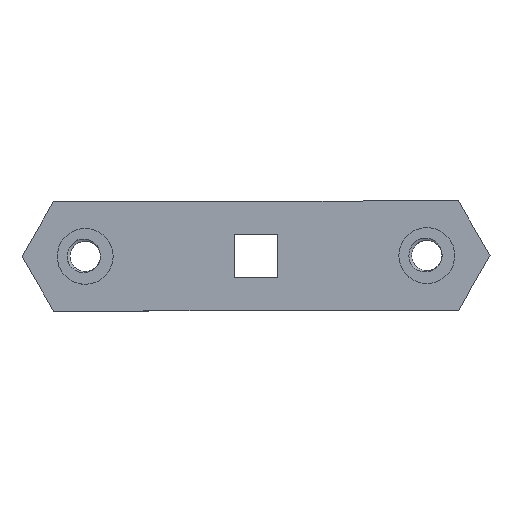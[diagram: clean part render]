
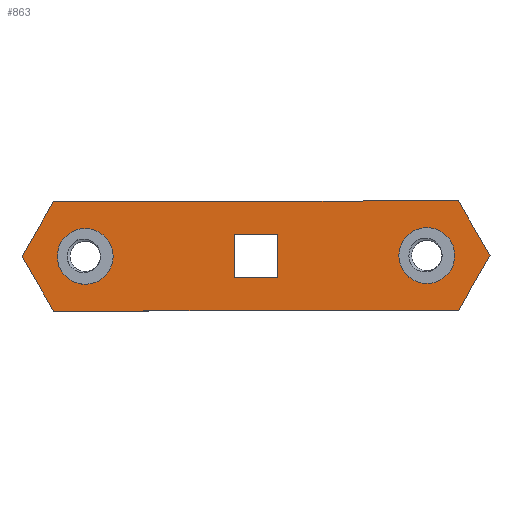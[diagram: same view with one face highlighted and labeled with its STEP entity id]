
A CAD part, top view. The second image highlights one B-rep face of the part: STEP entity #863.
In plain terms, the highlighted planar face has unit normal (0, 0, 1) as drawn and (0, 1, 0) by its records, which use the part's own axes.
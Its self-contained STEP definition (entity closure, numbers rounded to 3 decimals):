
#25=FACE_BOUND('',#142,.T.);
#26=FACE_BOUND('',#143,.T.);
#27=FACE_BOUND('',#144,.T.);
#43=PLANE('',#935);
#93=FACE_OUTER_BOUND('',#141,.T.);
#141=EDGE_LOOP('',(#761,#762,#763,#764,#765,#766));
#142=EDGE_LOOP('',(#767));
#143=EDGE_LOOP('',(#768));
#144=EDGE_LOOP('',(#769,#770,#771,#772));
#161=CIRCLE('',#920,6.375);
#162=CIRCLE('',#922,6.375);
#247=LINE('',#4027,#301);
#250=LINE('',#4033,#304);
#253=LINE('',#4039,#307);
#256=LINE('',#4043,#310);
#259=LINE('',#4053,#313);
#262=LINE('',#4059,#316);
#265=LINE('',#4065,#319);
#268=LINE('',#4071,#322);
#271=LINE('',#4077,#325);
#274=LINE('',#4081,#328);
#301=VECTOR('',#1057,10.);
#304=VECTOR('',#1062,10.);
#307=VECTOR('',#1067,10.);
#310=VECTOR('',#1072,10.);
#313=VECTOR('',#1081,10.);
#316=VECTOR('',#1086,10.);
#319=VECTOR('',#1091,10.);
#322=VECTOR('',#1096,10.);
#325=VECTOR('',#1101,10.);
#328=VECTOR('',#1106,10.);
#391=VERTEX_POINT('',#4013);
#392=VERTEX_POINT('',#4017);
#395=VERTEX_POINT('',#4024);
#396=VERTEX_POINT('',#4026);
#398=VERTEX_POINT('',#4032);
#400=VERTEX_POINT('',#4038);
#403=VERTEX_POINT('',#4050);
#404=VERTEX_POINT('',#4052);
#406=VERTEX_POINT('',#4058);
#408=VERTEX_POINT('',#4064);
#410=VERTEX_POINT('',#4070);
#412=VERTEX_POINT('',#4076);
#506=EDGE_CURVE('',#391,#391,#161,.T.);
#508=EDGE_CURVE('',#392,#392,#162,.T.);
#511=EDGE_CURVE('',#396,#395,#247,.T.);
#514=EDGE_CURVE('',#398,#396,#250,.T.);
#517=EDGE_CURVE('',#400,#398,#253,.T.);
#520=EDGE_CURVE('',#395,#400,#256,.T.);
#523=EDGE_CURVE('',#404,#403,#259,.T.);
#526=EDGE_CURVE('',#406,#404,#262,.T.);
#529=EDGE_CURVE('',#408,#406,#265,.T.);
#532=EDGE_CURVE('',#410,#408,#268,.T.);
#535=EDGE_CURVE('',#412,#410,#271,.T.);
#538=EDGE_CURVE('',#403,#412,#274,.T.);
#761=ORIENTED_EDGE('',*,*,#538,.T.);
#762=ORIENTED_EDGE('',*,*,#535,.T.);
#763=ORIENTED_EDGE('',*,*,#532,.T.);
#764=ORIENTED_EDGE('',*,*,#529,.T.);
#765=ORIENTED_EDGE('',*,*,#526,.T.);
#766=ORIENTED_EDGE('',*,*,#523,.T.);
#767=ORIENTED_EDGE('',*,*,#506,.T.);
#768=ORIENTED_EDGE('',*,*,#508,.T.);
#769=ORIENTED_EDGE('',*,*,#520,.T.);
#770=ORIENTED_EDGE('',*,*,#517,.T.);
#771=ORIENTED_EDGE('',*,*,#514,.T.);
#772=ORIENTED_EDGE('',*,*,#511,.T.);
#863=ADVANCED_FACE('',(#93,#25,#26,#27),#43,.T.);
#920=AXIS2_PLACEMENT_3D('',#4015,#1046,#1047);
#922=AXIS2_PLACEMENT_3D('',#4019,#1051,#1052);
#935=AXIS2_PLACEMENT_3D('',#4082,#1107,#1108);
#1046=DIRECTION('center_axis',(0.,-1.,0.));
#1047=DIRECTION('ref_axis',(1.,0.,0.));
#1051=DIRECTION('center_axis',(0.,-1.,0.));
#1052=DIRECTION('ref_axis',(1.,0.,0.));
#1057=DIRECTION('',(0.,0.,1.));
#1062=DIRECTION('',(1.,0.,0.));
#1067=DIRECTION('',(0.,0.,-1.));
#1072=DIRECTION('',(-1.,0.,0.));
#1081=DIRECTION('',(-0.5,0.,-0.866));
#1086=DIRECTION('',(0.5,0.,-0.866));
#1091=DIRECTION('',(1.,0.,0.));
#1096=DIRECTION('',(0.5,0.,0.866));
#1101=DIRECTION('',(-0.5,0.,0.866));
#1106=DIRECTION('',(-1.,0.,0.));
#1107=DIRECTION('center_axis',(0.,1.,0.));
#1108=DIRECTION('ref_axis',(1.,0.,0.));
#4013=CARTESIAN_POINT('',(-45.375,2.,0.));
#4015=CARTESIAN_POINT('Origin',(-39.,2.,0.));
#4017=CARTESIAN_POINT('',(32.625,2.,0.));
#4019=CARTESIAN_POINT('Origin',(39.,2.,0.));
#4024=CARTESIAN_POINT('',(5.,2.,5.));
#4026=CARTESIAN_POINT('',(5.,2.,-5.));
#4027=CARTESIAN_POINT('',(5.,2.,-5.));
#4032=CARTESIAN_POINT('',(-5.,2.,-5.));
#4033=CARTESIAN_POINT('',(-5.,2.,-5.));
#4038=CARTESIAN_POINT('',(-5.,2.,5.));
#4039=CARTESIAN_POINT('',(-5.,2.,5.));
#4043=CARTESIAN_POINT('',(5.,2.,5.));
#4050=CARTESIAN_POINT('',(46.217,2.,-12.5));
#4052=CARTESIAN_POINT('',(53.434,2.,0.));
#4053=CARTESIAN_POINT('',(53.434,2.,0.));
#4058=CARTESIAN_POINT('',(46.217,2.,12.5));
#4059=CARTESIAN_POINT('',(46.217,2.,12.5));
#4064=CARTESIAN_POINT('',(-46.217,2.,12.5));
#4065=CARTESIAN_POINT('',(-46.217,2.,12.5));
#4070=CARTESIAN_POINT('',(-53.434,2.,0.));
#4071=CARTESIAN_POINT('',(-53.434,2.,0.));
#4076=CARTESIAN_POINT('',(-46.217,2.,-12.5));
#4077=CARTESIAN_POINT('',(-46.217,2.,-12.5));
#4081=CARTESIAN_POINT('',(46.217,2.,-12.5));
#4082=CARTESIAN_POINT('Origin',(0.,2.,0.));
